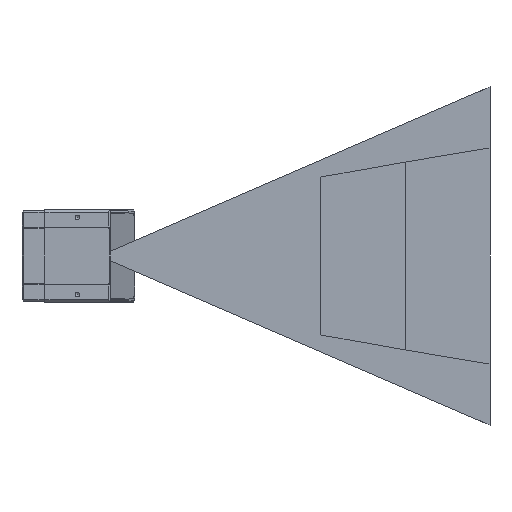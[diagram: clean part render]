
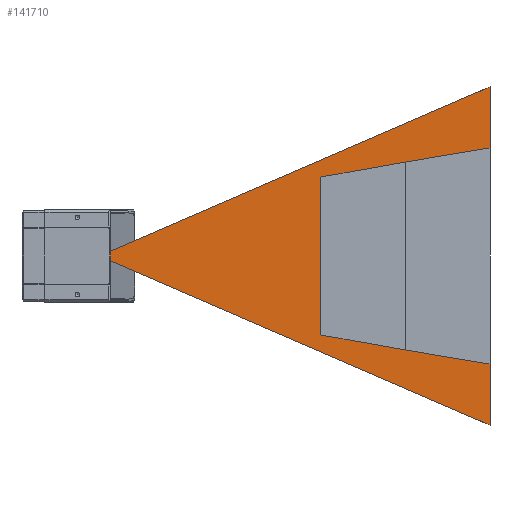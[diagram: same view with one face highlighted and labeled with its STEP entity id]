
A CAD part, left-side view. The second image highlights one B-rep face of the part: STEP entity #141710.
In plain terms, the highlighted planar face has unit normal (-1, 0, 0).
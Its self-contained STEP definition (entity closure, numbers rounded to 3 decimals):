
#107 = CARTESIAN_POINT ( 'NONE',  ( -0.001, -207.5, 57.5 ) ) ;
#3773 = ORIENTED_EDGE ( 'NONE', *, *, #38381, .F. ) ;
#3851 = CARTESIAN_POINT ( 'NONE',  ( -0.001, 0., 0. ) ) ;
#5100 = CARTESIAN_POINT ( 'NONE',  ( -0.001, -162.5, -50. ) ) ;
#5559 = CARTESIAN_POINT ( 'NONE',  ( -0.001, -207.5, 57.5 ) ) ;
#8201 = CARTESIAN_POINT ( 'NONE',  ( -0.001, -207.5, -90. ) ) ;
#10523 = CARTESIAN_POINT ( 'NONE',  ( -0.001, -117.5, 42. ) ) ;
#14655 = ORIENTED_EDGE ( 'NONE', *, *, #62748, .F. ) ;
#16828 = VECTOR ( 'NONE', #24626, 1000. ) ;
#19901 = LINE ( 'NONE', #66403, #56310 ) ;
#20108 = ORIENTED_EDGE ( 'NONE', *, *, #42410, .F. ) ;
#22756 = ORIENTED_EDGE ( 'NONE', *, *, #47722, .F. ) ;
#23861 = VERTEX_POINT ( 'NONE', #95021 ) ;
#24626 = DIRECTION ( 'NONE',  ( 0., 0., -1. ) ) ;
#26062 = EDGE_CURVE ( 'NONE', #27467, #54557, #83404, .T. ) ;
#27467 = VERTEX_POINT ( 'NONE', #73736 ) ;
#29065 = LINE ( 'NONE', #5559, #135041 ) ;
#30186 = VECTOR ( 'NONE', #31944, 1000. ) ;
#30334 = DIRECTION ( 'NONE',  ( 0., 1., 0. ) ) ;
#30553 = VERTEX_POINT ( 'NONE', #32141 ) ;
#31944 = DIRECTION ( 'NONE',  ( 0., 0., -1. ) ) ;
#32141 = CARTESIAN_POINT ( 'NONE',  ( -0.001, -117.5, -42. ) ) ;
#37004 = FACE_OUTER_BOUND ( 'NONE', #70664, .T. ) ;
#38381 = EDGE_CURVE ( 'NONE', #23861, #119713, #132849, .T. ) ;
#40119 = DIRECTION ( 'NONE',  ( 0., 0.986, -0.164 ) ) ;
#40625 = VERTEX_POINT ( 'NONE', #49528 ) ;
#40749 = ORIENTED_EDGE ( 'NONE', *, *, #67372, .F. ) ;
#42040 = DIRECTION ( 'NONE',  ( 0., -0.985, -0.175 ) ) ;
#42410 = EDGE_CURVE ( 'NONE', #105486, #27467, #29065, .T. ) ;
#42972 = VECTOR ( 'NONE', #43225, 1000. ) ;
#43225 = DIRECTION ( 'NONE',  ( 0., 0.917, 0.398 ) ) ;
#45554 = VECTOR ( 'NONE', #105436, 1000. ) ;
#47722 = EDGE_CURVE ( 'NONE', #98729, #54576, #59842, .T. ) ;
#48798 = DIRECTION ( 'NONE',  ( 0., -0.917, 0.398 ) ) ;
#49528 = CARTESIAN_POINT ( 'NONE',  ( -0.001, -162.5, -50. ) ) ;
#52491 = CARTESIAN_POINT ( 'NONE',  ( -0.001, 0., 0. ) ) ;
#53239 = DIRECTION ( 'NONE',  ( -1., 0., 0. ) ) ;
#54557 = VERTEX_POINT ( 'NONE', #10523 ) ;
#54576 = VERTEX_POINT ( 'NONE', #139272 ) ;
#56310 = VECTOR ( 'NONE', #109756, 1000. ) ;
#57451 = ORIENTED_EDGE ( 'NONE', *, *, #26062, .F. ) ;
#57863 = VECTOR ( 'NONE', #141292, 1000. ) ;
#57887 = CARTESIAN_POINT ( 'NONE',  ( -0.001, -117.5, 42. ) ) ;
#58462 = CARTESIAN_POINT ( 'NONE',  ( -0.001, -117.5, 42. ) ) ;
#59018 = EDGE_CURVE ( 'NONE', #54576, #105486, #19901, .T. ) ;
#59842 = LINE ( 'NONE', #3851, #112904 ) ;
#62748 = EDGE_CURVE ( 'NONE', #119713, #98729, #141891, .T. ) ;
#66403 = CARTESIAN_POINT ( 'NONE',  ( -0.001, -207.5, 0. ) ) ;
#67372 = EDGE_CURVE ( 'NONE', #30553, #40625, #129701, .T. ) ;
#70664 = EDGE_LOOP ( 'NONE', ( #20108, #82575, #22756, #14655, #3773, #75011, #40749, #133447, #57451 ) ) ;
#73736 = CARTESIAN_POINT ( 'NONE',  ( -0.001, -162.5, 50. ) ) ;
#74240 = CARTESIAN_POINT ( 'NONE',  ( -0.001, 0., 0. ) ) ;
#75011 = ORIENTED_EDGE ( 'NONE', *, *, #78681, .F. ) ;
#78681 = EDGE_CURVE ( 'NONE', #40625, #23861, #85365, .T. ) ;
#82009 = PLANE ( 'NONE',  #84145 ) ;
#82575 = ORIENTED_EDGE ( 'NONE', *, *, #59018, .F. ) ;
#83404 = LINE ( 'NONE', #58462, #45554 ) ;
#84145 = AXIS2_PLACEMENT_3D ( 'NONE', #52491, #53239, #30334 ) ;
#85365 = LINE ( 'NONE', #5100, #57863 ) ;
#86517 = CARTESIAN_POINT ( 'NONE',  ( -0.001, -207.5, 0. ) ) ;
#89560 = LINE ( 'NONE', #57887, #16828 ) ;
#95021 = CARTESIAN_POINT ( 'NONE',  ( -0.001, -207.5, -57.5 ) ) ;
#98729 = VERTEX_POINT ( 'NONE', #74240 ) ;
#105436 = DIRECTION ( 'NONE',  ( 0., 0.985, -0.175 ) ) ;
#105486 = VERTEX_POINT ( 'NONE', #107 ) ;
#109756 = DIRECTION ( 'NONE',  ( 0., 0., -1. ) ) ;
#112904 = VECTOR ( 'NONE', #48798, 1000. ) ;
#115395 = VECTOR ( 'NONE', #42040, 1000. ) ;
#119713 = VERTEX_POINT ( 'NONE', #8201 ) ;
#125123 = EDGE_CURVE ( 'NONE', #54557, #30553, #89560, .T. ) ;
#129701 = LINE ( 'NONE', #142896, #115395 ) ;
#132849 = LINE ( 'NONE', #86517, #30186 ) ;
#133447 = ORIENTED_EDGE ( 'NONE', *, *, #125123, .F. ) ;
#135041 = VECTOR ( 'NONE', #40119, 1000. ) ;
#139272 = CARTESIAN_POINT ( 'NONE',  ( -0.001, -207.5, 90. ) ) ;
#141292 = DIRECTION ( 'NONE',  ( 0., -0.986, -0.164 ) ) ;
#141710 = ADVANCED_FACE ( 'NONE', ( #37004 ), #82009, .T. ) ;
#141891 = LINE ( 'NONE', #144077, #42972 ) ;
#142896 = CARTESIAN_POINT ( 'NONE',  ( -0.001, -162.5, -50. ) ) ;
#144077 = CARTESIAN_POINT ( 'NONE',  ( -0.001, -207.5, -90. ) ) ;
